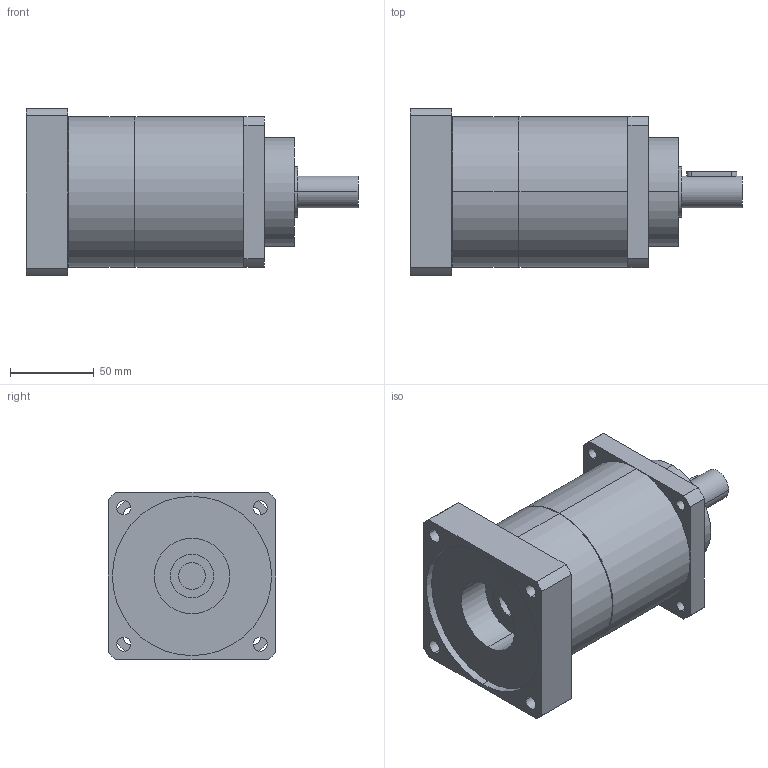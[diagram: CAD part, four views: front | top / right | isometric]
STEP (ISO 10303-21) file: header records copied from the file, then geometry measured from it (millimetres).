
FILE_DESCRIPTION(('CoCreate Modeling STEP Export'),'2;1');
FILE_NAME('GPT90_ig-9-12-16-20-25-28-35-40-50-70-100_19_B5T_15.87_P35.stp','2015-02-04T11:31:39',(''),(''),'CoCreate Modeling STEP processor for AP214 (Solid Model)','CoCreate Modeling 16.00C 25-Feb-2009 (C) Parametric Technology GmbH','');
FILE_SCHEMA(('AUTOMOTIVE_DESIGN { 1 0 10303 214 1 1 1 1 }'));
Length unit declared in the file: millimetre
Products named in the file (2): GPT90_ig-9-12-16-20-25-28-35-40-50-70-100_19_B5T_15.87_P35
Assembly tree (1 placements, depth 2):
  GPT90_ig-9-12-16-20-25-28-35-40-50-70-100_19_B5T_15.87_P35
    GPT90_ig-9-12-16-20-25-28-35-40-50-70-100_19_B5T_15.87_P35
Bounding box: 198 x 100 x 100 mm (x, y, z)
Volume: 1007301.6 mm3; surface area: 82983.4 mm2
Topology: 1 solids, 1 shells, 77 faces, 206 edges, 141 vertices
Faces by surface type: cylinder 46, plane 27, cone 4
Entity records: 2596 total; most frequent: CARTESIAN_POINT 742, ORIENTED_EDGE 412, DIRECTION 324, EDGE_CURVE 206, VERTEX_POINT 141, AXIS2_PLACEMENT_3D 120, EDGE_LOOP 103, VECTOR 84
